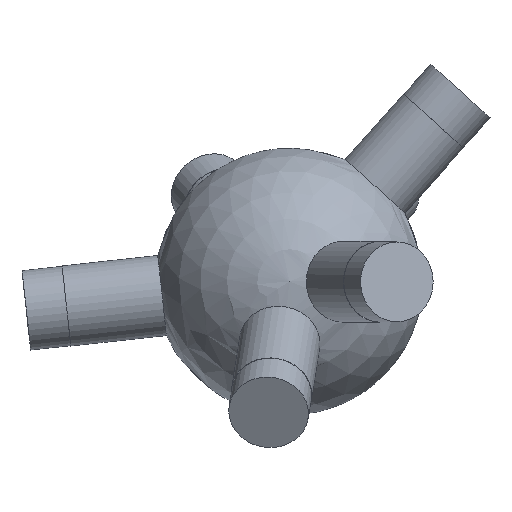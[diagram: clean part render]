
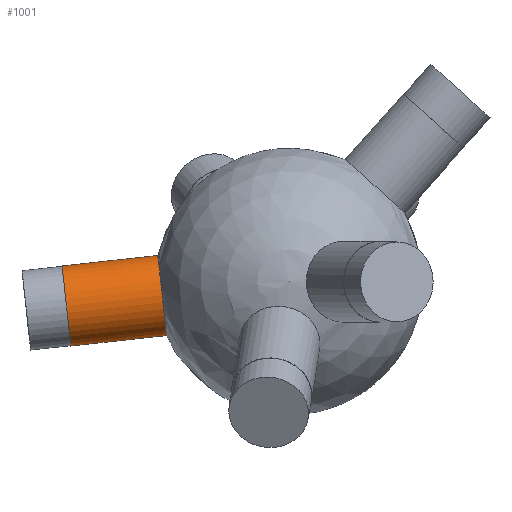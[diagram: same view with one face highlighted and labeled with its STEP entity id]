
A CAD part, top view. The second image highlights one B-rep face of the part: STEP entity #1001.
In plain terms, the highlighted cylindrical face has radius 6 mm (diameter 12 mm), a full revolution.
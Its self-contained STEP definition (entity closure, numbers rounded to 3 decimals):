
#33 = SPHERICAL_SURFACE('',#34,20.);
#34 = AXIS2_PLACEMENT_3D('',#35,#36,#37);
#35 = CARTESIAN_POINT('',(0.,0.,0.));
#36 = DIRECTION('',(0.,0.,1.));
#37 = DIRECTION('',(1.,0.,-0.));
#568 = EDGE_CURVE('',#569,#569,#571,.T.);
#569 = VERTEX_POINT('',#570);
#570 = CARTESIAN_POINT('',(-18.314,-8.038,
    0.034));
#571 = SURFACE_CURVE('',#572,(#577,#639),.PCURVE_S1.);
#572 = CIRCLE('',#573,6.);
#573 = AXIS2_PLACEMENT_3D('',#574,#575,#576);
#574 = CARTESIAN_POINT('',(-18.966,-2.074,
    0.034));
#575 = DIRECTION('',(-0.994,-0.109,0.002)
  );
#576 = DIRECTION('',(0.109,-0.994,0.)
  );
#577 = PCURVE('',#33,#578);
#578 = DEFINITIONAL_REPRESENTATION('',(#579),#638);
#579 = B_SPLINE_CURVE_WITH_KNOTS('',8,(#580,#581,#582,#583,#584,#585,
    #586,#587,#588,#589,#590,#591,#592,#593,#594,#595,#596,#597,#598,
    #599,#600,#601,#602,#603,#604,#605,#606,#607,#608,#609,#610,#611,
    #612,#613,#614,#615,#616,#617,#618,#619,#620,#621,#622,#623,#624,
    #625,#626,#627,#628,#629,#630,#631,#632,#633,#634,#635,#636,#637),
  .UNSPECIFIED.,.F.,.F.,(9,7,7,7,7,7,7,7,9),(0.,0.785,
    1.473,2.074,3.126,3.915,
    4.507,5.395,6.283),.UNSPECIFIED.);
#580 = CARTESIAN_POINT('',(3.555,0.002));
#581 = CARTESIAN_POINT('',(3.555,0.031));
#582 = CARTESIAN_POINT('',(3.552,0.061));
#583 = CARTESIAN_POINT('',(3.546,0.09));
#584 = CARTESIAN_POINT('',(3.536,0.118));
#585 = CARTESIAN_POINT('',(3.524,0.145));
#586 = CARTESIAN_POINT('',(3.508,0.171));
#587 = CARTESIAN_POINT('',(3.49,0.194));
#588 = CARTESIAN_POINT('',(3.451,0.234));
#589 = CARTESIAN_POINT('',(3.431,0.251));
#590 = CARTESIAN_POINT('',(3.409,0.266));
#591 = CARTESIAN_POINT('',(3.386,0.279));
#592 = CARTESIAN_POINT('',(3.361,0.289));
#593 = CARTESIAN_POINT('',(3.335,0.297));
#594 = CARTESIAN_POINT('',(3.308,0.302));
#595 = CARTESIAN_POINT('',(3.258,0.307));
#596 = CARTESIAN_POINT('',(3.234,0.308));
#597 = CARTESIAN_POINT('',(3.21,0.306));
#598 = CARTESIAN_POINT('',(3.187,0.302));
#599 = CARTESIAN_POINT('',(3.164,0.296));
#600 = CARTESIAN_POINT('',(3.142,0.289));
#601 = CARTESIAN_POINT('',(3.12,0.279));
#602 = CARTESIAN_POINT('',(3.064,0.248));
#603 = CARTESIAN_POINT('',(3.032,0.223));
#604 = CARTESIAN_POINT('',(3.005,0.193));
#605 = CARTESIAN_POINT('',(2.982,0.16));
#606 = CARTESIAN_POINT('',(2.964,0.123));
#607 = CARTESIAN_POINT('',(2.953,0.085));
#608 = CARTESIAN_POINT('',(2.946,0.046));
#609 = CARTESIAN_POINT('',(2.945,-0.023));
#610 = CARTESIAN_POINT('',(2.948,-0.053));
#611 = CARTESIAN_POINT('',(2.954,-0.082));
#612 = CARTESIAN_POINT('',(2.963,-0.111));
#613 = CARTESIAN_POINT('',(2.975,-0.138));
#614 = CARTESIAN_POINT('',(2.991,-0.164));
#615 = CARTESIAN_POINT('',(3.009,-0.188));
#616 = CARTESIAN_POINT('',(3.045,-0.226));
#617 = CARTESIAN_POINT('',(3.062,-0.241));
#618 = CARTESIAN_POINT('',(3.08,-0.254));
#619 = CARTESIAN_POINT('',(3.1,-0.266));
#620 = CARTESIAN_POINT('',(3.12,-0.276));
#621 = CARTESIAN_POINT('',(3.142,-0.285));
#622 = CARTESIAN_POINT('',(3.164,-0.292));
#623 = CARTESIAN_POINT('',(3.221,-0.303));
#624 = CARTESIAN_POINT('',(3.256,-0.306));
#625 = CARTESIAN_POINT('',(3.291,-0.305));
#626 = CARTESIAN_POINT('',(3.326,-0.298));
#627 = CARTESIAN_POINT('',(3.36,-0.288));
#628 = CARTESIAN_POINT('',(3.391,-0.273));
#629 = CARTESIAN_POINT('',(3.42,-0.255));
#630 = CARTESIAN_POINT('',(3.472,-0.212));
#631 = CARTESIAN_POINT('',(3.495,-0.187));
#632 = CARTESIAN_POINT('',(3.515,-0.159));
#633 = CARTESIAN_POINT('',(3.531,-0.129));
#634 = CARTESIAN_POINT('',(3.543,-0.098));
#635 = CARTESIAN_POINT('',(3.551,-0.065));
#636 = CARTESIAN_POINT('',(3.555,-0.032));
#637 = CARTESIAN_POINT('',(3.555,0.002));
#638 = ( GEOMETRIC_REPRESENTATION_CONTEXT(2) 
PARAMETRIC_REPRESENTATION_CONTEXT() REPRESENTATION_CONTEXT('2D SPACE',''
  ) );
#639 = PCURVE('',#640,#645);
#640 = CYLINDRICAL_SURFACE('',#641,6.);
#641 = AXIS2_PLACEMENT_3D('',#642,#643,#644);
#642 = CARTESIAN_POINT('',(0.,0.,0.));
#643 = DIRECTION('',(-0.994,-0.109,0.002)
  );
#644 = DIRECTION('',(0.109,-0.994,0.)
  );
#645 = DEFINITIONAL_REPRESENTATION('',(#646),#650);
#646 = LINE('',#647,#648);
#647 = CARTESIAN_POINT('',(0.,19.079));
#648 = VECTOR('',#649,1.);
#649 = DIRECTION('',(1.,0.));
#650 = ( GEOMETRIC_REPRESENTATION_CONTEXT(2) 
PARAMETRIC_REPRESENTATION_CONTEXT() REPRESENTATION_CONTEXT('2D SPACE',''
  ) );
#1001 = ADVANCED_FACE('',(#1002),#640,.T.);
#1002 = FACE_BOUND('',#1003,.T.);
#1003 = EDGE_LOOP('',(#1004,#1027,#1054,#1055));
#1004 = ORIENTED_EDGE('',*,*,#1005,.T.);
#1005 = EDGE_CURVE('',#569,#1006,#1008,.T.);
#1006 = VERTEX_POINT('',#1007);
#1007 = CARTESIAN_POINT('',(-32.569,-9.597,
    0.059));
#1008 = SEAM_CURVE('',#1009,(#1013,#1020),.PCURVE_S1.);
#1009 = LINE('',#1010,#1011);
#1010 = CARTESIAN_POINT('',(0.652,-5.964,
    0.));
#1011 = VECTOR('',#1012,1.);
#1012 = DIRECTION('',(-0.994,-0.109,0.002
    ));
#1013 = PCURVE('',#640,#1014);
#1014 = DEFINITIONAL_REPRESENTATION('',(#1015),#1019);
#1015 = LINE('',#1016,#1017);
#1016 = CARTESIAN_POINT('',(6.283,-0.));
#1017 = VECTOR('',#1018,1.);
#1018 = DIRECTION('',(0.,1.));
#1019 = ( GEOMETRIC_REPRESENTATION_CONTEXT(2) 
PARAMETRIC_REPRESENTATION_CONTEXT() REPRESENTATION_CONTEXT('2D SPACE',''
  ) );
#1020 = PCURVE('',#640,#1021);
#1021 = DEFINITIONAL_REPRESENTATION('',(#1022),#1026);
#1022 = LINE('',#1023,#1024);
#1023 = CARTESIAN_POINT('',(0.,-0.));
#1024 = VECTOR('',#1025,1.);
#1025 = DIRECTION('',(0.,1.));
#1026 = ( GEOMETRIC_REPRESENTATION_CONTEXT(2) 
PARAMETRIC_REPRESENTATION_CONTEXT() REPRESENTATION_CONTEXT('2D SPACE',''
  ) );
#1027 = ORIENTED_EDGE('',*,*,#1028,.F.);
#1028 = EDGE_CURVE('',#1006,#1006,#1029,.T.);
#1029 = SURFACE_CURVE('',#1030,(#1035,#1042),.PCURVE_S1.);
#1030 = CIRCLE('',#1031,6.);
#1031 = AXIS2_PLACEMENT_3D('',#1032,#1033,#1034);
#1032 = CARTESIAN_POINT('',(-33.221,-3.632,
    0.059));
#1033 = DIRECTION('',(-0.994,-0.109,0.002
    ));
#1034 = DIRECTION('',(0.109,-0.994,0.)
  );
#1035 = PCURVE('',#640,#1036);
#1036 = DEFINITIONAL_REPRESENTATION('',(#1037),#1041);
#1037 = LINE('',#1038,#1039);
#1038 = CARTESIAN_POINT('',(0.,33.419));
#1039 = VECTOR('',#1040,1.);
#1040 = DIRECTION('',(1.,0.));
#1041 = ( GEOMETRIC_REPRESENTATION_CONTEXT(2) 
PARAMETRIC_REPRESENTATION_CONTEXT() REPRESENTATION_CONTEXT('2D SPACE',''
  ) );
#1042 = PCURVE('',#1043,#1048);
#1043 = PLANE('',#1044);
#1044 = AXIS2_PLACEMENT_3D('',#1045,#1046,#1047);
#1045 = CARTESIAN_POINT('',(-33.221,-3.632,
    0.059));
#1046 = DIRECTION('',(-0.994,-0.109,0.002
    ));
#1047 = DIRECTION('',(0.109,-0.994,0.)
  );
#1048 = DEFINITIONAL_REPRESENTATION('',(#1049),#1053);
#1049 = CIRCLE('',#1050,6.);
#1050 = AXIS2_PLACEMENT_2D('',#1051,#1052);
#1051 = CARTESIAN_POINT('',(0.,0.));
#1052 = DIRECTION('',(1.,0.));
#1053 = ( GEOMETRIC_REPRESENTATION_CONTEXT(2) 
PARAMETRIC_REPRESENTATION_CONTEXT() REPRESENTATION_CONTEXT('2D SPACE',''
  ) );
#1054 = ORIENTED_EDGE('',*,*,#1005,.F.);
#1055 = ORIENTED_EDGE('',*,*,#568,.T.);
